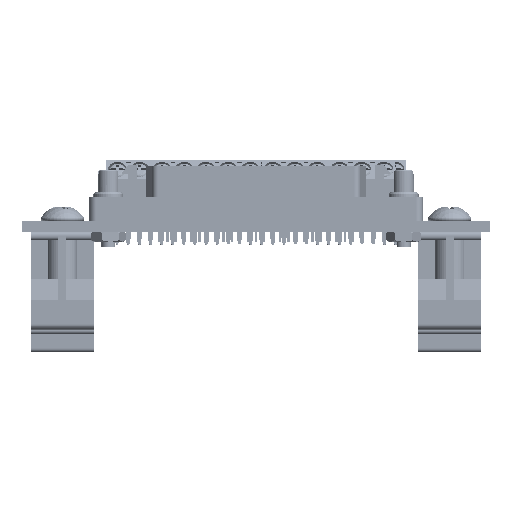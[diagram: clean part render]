
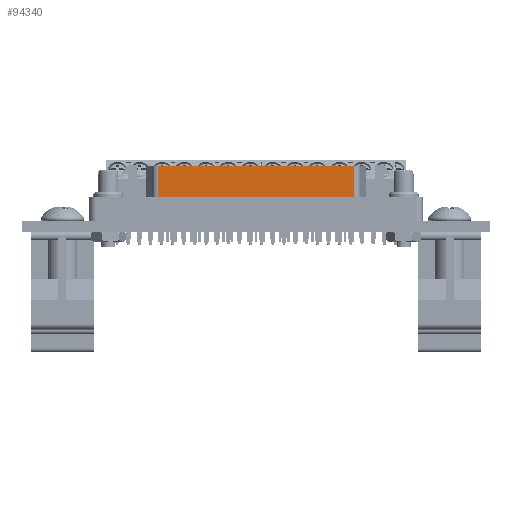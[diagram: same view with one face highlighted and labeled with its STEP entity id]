
A CAD part, left-side view. The second image highlights one B-rep face of the part: STEP entity #94340.
In plain terms, the highlighted planar face has unit normal (-1, 0, 0) as drawn and (0, -1, 0) by its records, which use the part's own axes.
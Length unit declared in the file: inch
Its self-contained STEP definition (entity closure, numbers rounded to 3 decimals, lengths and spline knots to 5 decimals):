
#11513 = ORIENTED_EDGE ( 'NONE', *, *, #116595, .T. ) ;
#15593 = CARTESIAN_POINT ( 'NONE',  ( -0.60649, -0.109, -0.193 ) ) ;
#26629 = VERTEX_POINT ( 'NONE', #166798 ) ;
#28902 = EDGE_CURVE ( 'NONE', #26629, #206411, #46145, .T. ) ;
#34213 = DIRECTION ( 'NONE',  ( -1., 0., 0. ) ) ;
#39343 = VECTOR ( 'NONE', #78004, 39.37008 ) ;
#41473 = DIRECTION ( 'NONE',  ( 0., 0., 1. ) ) ;
#43169 = LINE ( 'NONE', #140175, #120100 ) ;
#46145 = LINE ( 'NONE', #193682, #161645 ) ;
#48751 = LINE ( 'NONE', #143217, #98397 ) ;
#52227 = ORIENTED_EDGE ( 'NONE', *, *, #195662, .F. ) ;
#55890 = FACE_OUTER_BOUND ( 'NONE', #128777, .T. ) ;
#64455 = DIRECTION ( 'NONE',  ( 0., -1., 0. ) ) ;
#65626 = VERTEX_POINT ( 'NONE', #15593 ) ;
#78004 = DIRECTION ( 'NONE',  ( 0., 0., -1. ) ) ;
#88909 = LINE ( 'NONE', #181012, #39343 ) ;
#94340 = ADVANCED_FACE ( 'NONE', ( #55890 ), #151964, .T. ) ;
#98397 = VECTOR ( 'NONE', #199218, 39.37008 ) ;
#115818 = CARTESIAN_POINT ( 'NONE',  ( 0.60649, -0.109, 0. ) ) ;
#116595 = EDGE_CURVE ( 'NONE', #206411, #181425, #48751, .T. ) ;
#120100 = VECTOR ( 'NONE', #34213, 39.37008 ) ;
#128777 = EDGE_LOOP ( 'NONE', ( #144857, #52227, #136969, #11513 ) ) ;
#135843 = EDGE_CURVE ( 'NONE', #181425, #65626, #88909, .T. ) ;
#136969 = ORIENTED_EDGE ( 'NONE', *, *, #28902, .T. ) ;
#140175 = CARTESIAN_POINT ( 'NONE',  ( 0., -0.109, -0.193 ) ) ;
#140578 = CARTESIAN_POINT ( 'NONE',  ( -0.60649, -0.109, 0. ) ) ;
#143217 = CARTESIAN_POINT ( 'NONE',  ( -0.60649, -0.109, 0. ) ) ;
#144857 = ORIENTED_EDGE ( 'NONE', *, *, #135843, .T. ) ;
#151964 = PLANE ( 'NONE',  #226404 ) ;
#161645 = VECTOR ( 'NONE', #41473, 39.37008 ) ;
#166798 = CARTESIAN_POINT ( 'NONE',  ( 0.60649, -0.109, -0.193 ) ) ;
#169642 = CARTESIAN_POINT ( 'NONE',  ( -0.60649, -0.109, 0. ) ) ;
#181012 = CARTESIAN_POINT ( 'NONE',  ( -0.60649, -0.109, 0. ) ) ;
#181425 = VERTEX_POINT ( 'NONE', #140578 ) ;
#193682 = CARTESIAN_POINT ( 'NONE',  ( 0.60649, -0.109, 0. ) ) ;
#195662 = EDGE_CURVE ( 'NONE', #26629, #65626, #43169, .T. ) ;
#199218 = DIRECTION ( 'NONE',  ( -1., 0., 0. ) ) ;
#204998 = DIRECTION ( 'NONE',  ( 0., 0., -1. ) ) ;
#206411 = VERTEX_POINT ( 'NONE', #115818 ) ;
#226404 = AXIS2_PLACEMENT_3D ( 'NONE', #169642, #64455, #204998 ) ;
